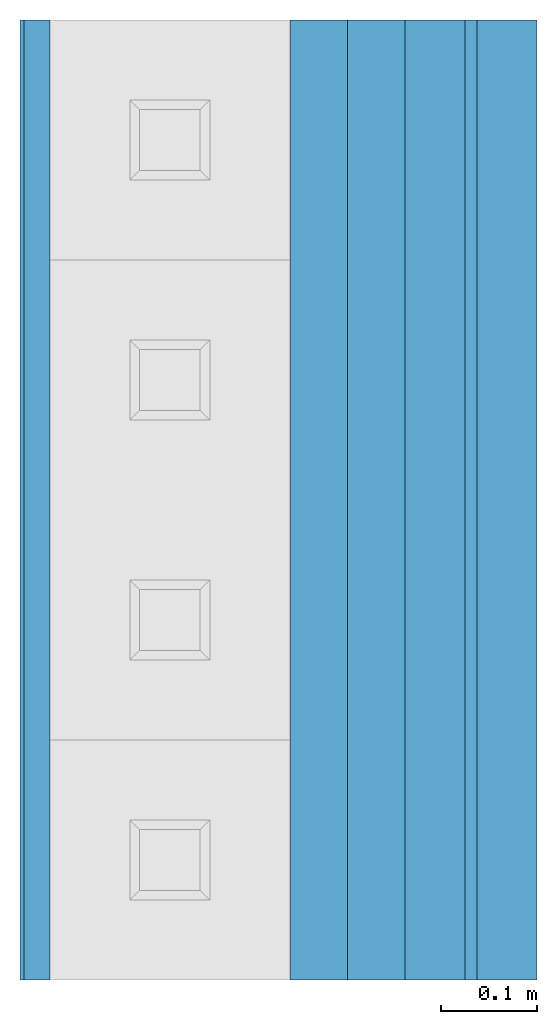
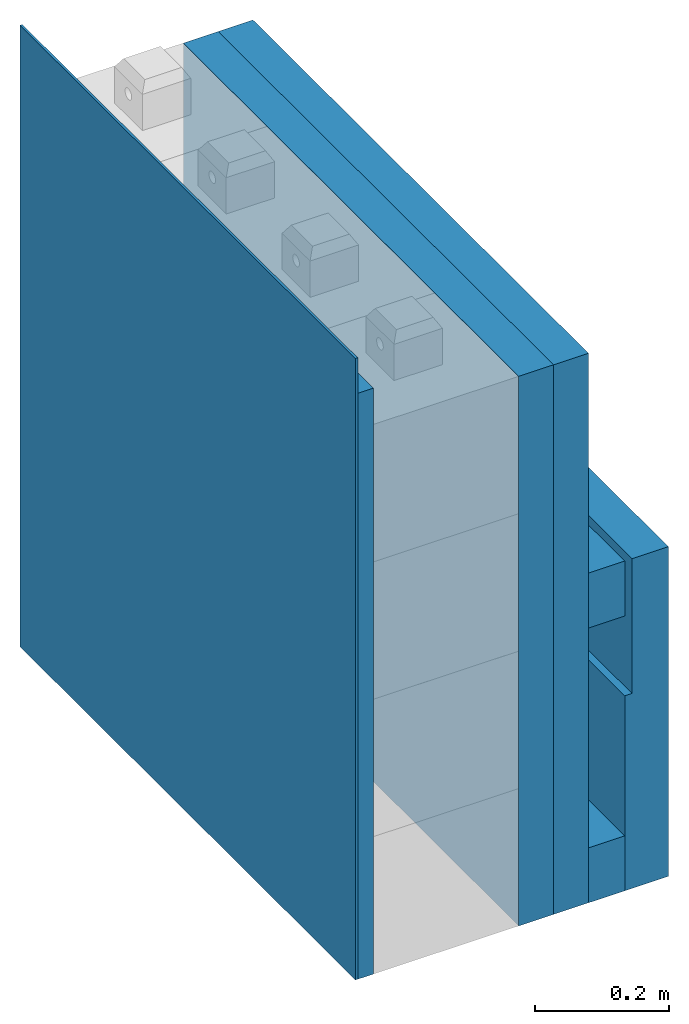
# One storey, incomplete: 6 walls, 1 opening.
"""IFC4 building model written with IfcOpenShell, lengths in centimetres."""

from ifc_helpers import new_model, entity, si_unit, converted_unit, direction, frame, origin, place, context, subcontext, project, spatial, indexed_curve, outline, extrude, material, constituent, constituent_set, type_object, element, save


model = new_model("IFC4")

# Units and contexts
model_context = context("Model", 3, precision=0.001, world=origin(), true_north=direction((0.0, 1.0)))
body_context = subcontext(model_context, "Body", "Model", "MODEL_VIEW")
ifc_project = project(units=[si_unit("LENGTHUNIT", "METRE", prefix="CENTI"), si_unit("AREAUNIT", "SQUARE_METRE"), si_unit("VOLUMEUNIT", "CUBIC_METRE"), converted_unit("PLANEANGLEUNIT", "DEGREE", entity("IfcPlaneAngleMeasure", 0.017453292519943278), si_unit("PLANEANGLEUNIT", "RADIAN"), dimensions=[0, 0, 0, 0, 0, 0, 0])], contexts=[model_context])

# Site, building, storey
site_placement = place(None, origin())
site = spatial("IfcSite", under=ifc_project, at=site_placement, Name="Default", CompositionType="ELEMENT")
building_placement = place(site_placement, origin())
building = spatial("IfcBuilding", under=site, at=building_placement, CompositionType="ELEMENT")
storey_placement = place(building_placement, frame((0.0, 0.0, -12.0)))
storey = spatial("IfcBuildingStorey", under=building, at=storey_placement, Name="L00__ABOVE Slab", CompositionType="ELEMENT", Elevation=-12.000000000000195)

# Walls
ifc_material_1 = material(Name="_FCD VENT LAYERS__Insulation__MW, CS(10/y)≥0.5 w/ Wind-proof Veil__Rockwool Airrock HD FB1")
ifc_constituent_1 = constituent(ifc_material_1, Name="_FCD VENT LAYERS__Insulation__MW, CS(10/y)≥0.5 w/ Wind-proof Veil__Rockwool Airrock HD FB1", fraction=1.0)
ifc_constituent_set_1 = constituent_set(constituents=[ifc_constituent_1], Name="Basic Wall:wll__EXT ENCLOSURE__Ventilated, Wood Insulation 6cm__TriqBriq 2")
wall_type_1 = type_object("IfcWallType", Name="Walls : Basic Wall : wll__EXT ENCLOSURE__Ventilated, Wood Insulation 6cm__TriqBriq 2", PredefinedType="STANDARD", material=ifc_constituent_set_1)
for number, where, z_axis, x_axis in (
    (1, (5188.984148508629, 1961.7726455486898, 10.0), (0.0, 0.0, 1.0), (0.0, -1.0, 0.0)),
    (2, (5194.984148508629, 1961.7726455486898, 10.0), (0.0, 0.0, 1.0), (0.0, -1.0, 0.0)),
):
    element("IfcWall", number, at=place(storey_placement, frame(where, z_axis=z_axis, x_axis=x_axis)), inside=storey, type_object=wall_type_1, material=ifc_constituent_set_1, Name="Walls : Basic Wall : wll__EXT ENCLOSURE__Ventilated, Wood Insulation 6cm__TriqBriq 2", PredefinedType="NOTDEFINED", context=body_context, shape_type="SweptSolid", body=[
        extrude(outline(indexed_curve([(100.00000000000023, 3.0000000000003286), (-4.331468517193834e-15, 3.0000000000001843), (4.331468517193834e-15, -3.0000000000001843), (100.00000000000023, -3.00000000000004), (100.00000000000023, 3.0000000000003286)], self_intersect=False)), origin(), (0.0, 0.0, 1.0), 100.00000000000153),
    ])
ifc_material_2 = material(Name="GREEN")
wall_type_2 = type_object("IfcWallType", Name="Walls : Basic Wall : wll__EXT GREEN", PredefinedType="STANDARD")
wall_1_placement = place(storey_placement, frame((5207.984148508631, 1961.7726455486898, 10.0), z_axis=(0.0, 0.0, 1.0), x_axis=(0.0, -1.0, 0.0)))
element("IfcWall", 3, at=wall_1_placement, inside=storey, type_object=wall_type_2, material=ifc_material_2, Name="Walls : Basic Wall : wll__EXT GREEN", PredefinedType="NOTDEFINED", context=body_context, shape_type="SweptSolid", body=[
    extrude(outline(indexed_curve([(-0.6250000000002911, -50.00000000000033), (0.6249999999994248, -50.00000000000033), (0.6249999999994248, 49.99999999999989), (-0.6250000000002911, 49.99999999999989), (-0.6250000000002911, -50.00000000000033)], self_intersect=False)), frame((50.0, -3.124999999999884, 0.0), z_axis=(0.0, 0.0, 1.0), x_axis=(0.0, 1.0, 0.0)), (0.0, 0.0, 1.0), 35.477506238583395),
    extrude(outline(indexed_curve([(-2.4999999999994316, -50.000000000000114), (2.500000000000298, -50.000000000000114), (2.500000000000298, 50.000000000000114), (-2.4999999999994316, 50.000000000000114), (-2.4999999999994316, -50.000000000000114)], self_intersect=False)), frame((50.0, 1.2500000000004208, 0.0), z_axis=(0.0, 0.0, 1.0), x_axis=(0.0, -1.0, 0.0)), (0.0, 0.0, 1.0), 60.000000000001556),
    extrude(outline(indexed_curve([(-49.99999999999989, -0.6250000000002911), (50.00000000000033, -0.6250000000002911), (50.00000000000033, 0.6250000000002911), (-49.99999999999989, 0.6250000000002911), (-49.99999999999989, -0.6250000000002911)], self_intersect=False)), frame((50.0, -1.8750000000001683, 0.0)), (0.0, 0.0, 1.0), 60.000000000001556),
])

# Wall, opening
ifc_material_3 = material(Name="_PB STUDS & ANC__MTL Studs__50mm__CW 50@60 / GW50")
wall_type_3 = type_object("IfcWallType", Name="Walls : Basic Wall : wll__EXT CLADDING__Metal Support", PredefinedType="STANDARD")
wall_2_placement = place(storey_placement, frame((5201.10914850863, 1961.7726455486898, 10.0), z_axis=(0.0, 0.0, 1.0), x_axis=(0.0, -1.0, 0.0)))
wall_2 = element("IfcWall", 4, at=wall_2_placement, inside=storey, type_object=wall_type_3, material=ifc_material_3, Name="Walls : Basic Wall : wll__EXT CLADDING__Metal Support", PredefinedType="NOTDEFINED", context=body_context, shape_type="SweptSolid", body=[
    extrude(outline(indexed_curve([(-0.6250000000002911, -50.00000000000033), (0.6250000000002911, -50.00000000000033), (0.6250000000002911, 49.99999999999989), (-0.6250000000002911, 49.99999999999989), (-0.6250000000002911, -50.00000000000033)], self_intersect=False)), frame((50.0, -2.5000000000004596, 0.0), z_axis=(0.0, 0.0, 1.0), x_axis=(0.0, 1.0, 0.0)), (0.0, 0.0, 1.0), 10.000000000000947),
    extrude(outline(indexed_curve([(-0.6250000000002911, -50.00000000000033), (0.6250000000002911, -50.00000000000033), (0.6250000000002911, 49.99999999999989), (-0.6250000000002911, 49.99999999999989), (-0.6250000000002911, -50.00000000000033)], self_intersect=False)), frame((50.0, -2.5000000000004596, 50.0), z_axis=(0.0, 0.0, 1.0), x_axis=(0.0, 1.0, 0.0)), (0.0, 0.0, 1.0), 10.000000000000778),
    extrude(outline(indexed_curve([(-2.500000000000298, -50.000000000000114), (2.4999999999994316, -50.000000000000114), (2.4999999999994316, 50.000000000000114), (-2.4999999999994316, 50.000000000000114), (-2.500000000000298, -50.000000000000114)], self_intersect=False)), frame((50.0, 0.6249999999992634, 50.0), z_axis=(0.0, 0.0, 1.0), x_axis=(0.0, -1.0, 0.0)), (0.0, 0.0, 1.0), 10.000000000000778),
    extrude(outline(indexed_curve([(-2.500000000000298, -50.000000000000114), (2.4999999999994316, -50.000000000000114), (2.4999999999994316, 50.000000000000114), (-2.4999999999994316, 50.000000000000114), (-2.500000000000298, -50.000000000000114)], self_intersect=False)), frame((50.0, 0.6249999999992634, 0.0), z_axis=(0.0, 0.0, 1.0), x_axis=(0.0, -1.0, 0.0)), (0.0, 0.0, 1.0), 10.000000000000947),
])
opening_placement = place(wall_2_placement, frame((1961.772645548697, -5201.109148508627, 2.0)))
element("IfcOpeningElement", 5, at=opening_placement, cuts=wall_2, Name="Walls : Basic Wall : wll__EXT CLADDING__Metal Support", PredefinedType="OPENING", context=body_context, shape_type="SweptSolid", body=[
    extrude(outline(indexed_curve([(-50.0000000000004, -19.999999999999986), (50.000000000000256, -19.999999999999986), (50.0000000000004, 20.0), (-50.000000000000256, 20.0), (-50.0000000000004, -19.999999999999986)], self_intersect=False)), frame((-1911.772645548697, 4704.234148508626, 78.0), z_axis=(0.0, 1.0, 0.0), x_axis=(1.0, 0.0, 0.0)), (0.0, 0.0, 1.0), 499.99999999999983),
    extrude(outline(indexed_curve([(-50.0000000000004, -19.99999999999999), (50.000000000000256, -19.99999999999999), (50.0000000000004, 19.99999999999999), (-50.000000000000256, 19.99999999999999), (-50.0000000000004, -19.99999999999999)], self_intersect=False)), frame((-1911.772645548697, 4704.234148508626, 28.0), z_axis=(0.0, 1.0, 0.0), x_axis=(1.0, 0.0, 0.0)), (0.0, 0.0, 1.0), 499.99999999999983),
])

# Walls
ifc_material_4 = material(Name="_FCD VENT LAYERS__Support Board__3-Layered Wood Board", Category="Ceramic")
wall_type_4 = type_object("IfcWallType", Name="Walls : Basic Wall : wll__INT PARTITION__3-Ply Wood 2.7cm__TriqBriq, CI.1", PredefinedType="STANDARD")
wall_3_placement = place(storey_placement, frame((5159.634148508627, 1961.7726455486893, 10.0), z_axis=(0.0, 0.0, 1.0), x_axis=(0.0, -1.0, 0.0)))
element("IfcWall", 6, at=wall_3_placement, inside=storey, type_object=wall_type_4, material=ifc_material_4, Name="Walls : Basic Wall : wll__INT PARTITION__3-Ply Wood 2.7cm__TriqBriq, CI.1", PredefinedType="NOTDEFINED", context=body_context, shape_type="SweptSolid", body=[
    extrude(outline(indexed_curve([(100.00000000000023, 1.3499999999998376), (-1.9491608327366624e-15, 1.349999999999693), (1.9491608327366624e-15, -1.349999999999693), (100.00000000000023, -1.3499999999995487), (100.00000000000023, 1.3499999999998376)], self_intersect=False)), origin(), (0.0, 0.0, 1.0), 106.6033333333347),
])
ifc_material_5 = material(Name="_WLL & CLG FINISHES__Spray-cork", Category="플라스틱")
ifc_constituent_2 = constituent(ifc_material_5, Name="_WLL & CLG FINISHES__Spray-cork", Category="플라스틱", fraction=1.0)
ifc_constituent_set_2 = constituent_set(constituents=[ifc_constituent_2], Name="Basic Wall:wll__INT FINISH__Spritzkork 0.4cm__TriqBriq, TN.1")
wall_type_5 = type_object("IfcWallType", Name="Walls : Basic Wall : wll__INT FINISH__Spritzkork 0.4cm__TriqBriq, TN.1", PredefinedType="STANDARD", material=ifc_constituent_set_2)
wall_4_placement = place(storey_placement, frame((5158.084148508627, 1961.7726455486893, 10.0), z_axis=(0.0, 0.0, 1.0), x_axis=(0.0, -1.0, 0.0)))
element("IfcWall", 7, at=wall_4_placement, inside=storey, type_object=wall_type_5, material=ifc_constituent_set_2, Name="Walls : Basic Wall : wll__INT FINISH__Spritzkork 0.4cm__TriqBriq, TN.1", PredefinedType="NOTDEFINED", context=body_context, shape_type="SweptSolid", body=[
    extrude(outline(indexed_curve([(100.00000000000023, 0.2000000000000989), (-2.8876456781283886e-16, 0.19999999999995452), (2.8876456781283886e-16, -0.19999999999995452), (100.00000000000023, -0.19999999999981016), (100.00000000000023, 0.2000000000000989)], self_intersect=False)), origin(), (0.0, 0.0, 1.0), 113.08526190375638),
])

save(model, "model.ifc")
